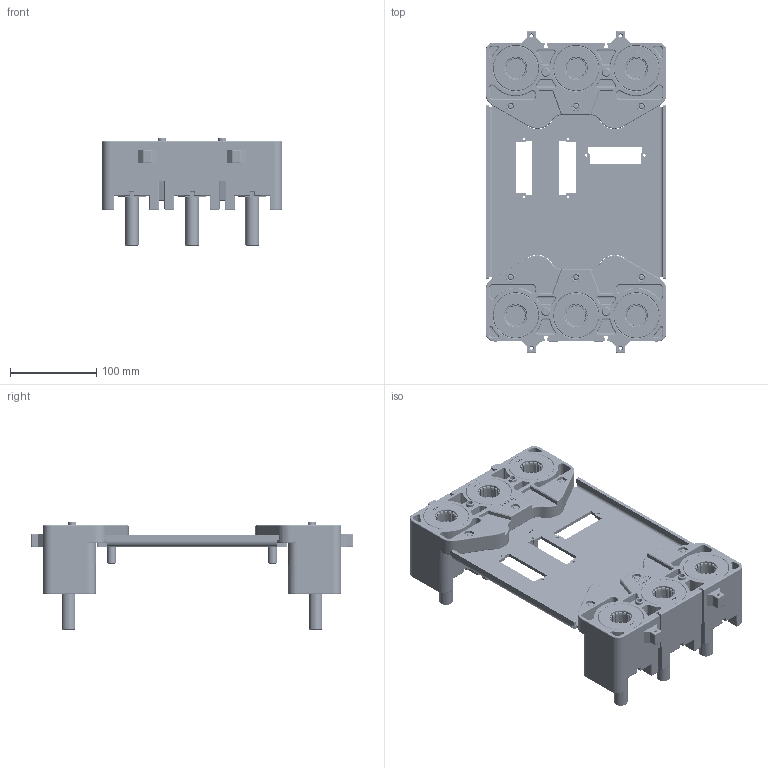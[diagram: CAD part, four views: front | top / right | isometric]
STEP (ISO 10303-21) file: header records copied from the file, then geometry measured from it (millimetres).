
FILE_DESCRIPTION(/* description */ (''),/* implementation_level */ '2;1');
FILE_NAME(/* name */ 'TDM 80GP P3_3D DATA.stp',/* time_stamp */ '2018-04-26T13:11:48+09:00',/* author */ (''),/* organization */ (''),/* preprocessor_version */ 'ST-DEVELOPER v15',/* originating_system */ 'SIEMENS PLM Software NX 9.0',/* authorisation */ '');
FILE_SCHEMA (('AP203_CONFIGURATION_CONTROLLED_3D_DESIGN_OF_MECHANICAL_PARTS_AND_ASSEMBLIES_MIM_LF { 1 0 10303 403 2 1 2}'));
Products named in the file (16): CONNECTED_SPRING_80GP_R00; PC-STUD BOLT M16xL78_R00; GP4-MO-9002_R01; GP4-PG-9001_R00; GC4-PR-9001_R00; STOPPER(4ME-04757)_R00; FIX PLATE(4ME-04758)_R00; GP4-MO-9001_R03; GP1-OT-9003_R00; PC_M6 NUT_R00; PC_DH BOLT M6xL22_R00; GP4-PR-9001_R00; GP4-AS-9001_R00; GP4-CP-9002_R00; GP4-CP-9001_R00_MODEL; GP4-CP-9001_R00
Assembly tree (48 placements, depth 5):
  GP4-CP-9001_R00
    GP4-CP-9001_R00_MODEL
      GP4-PR-9001_R00
      PC_DH BOLT M6xL22_R00  x6
      GP4-CP-9002_R00  x2
        GP4-AS-9001_R00
          GC4-PR-9001_R00  x16
          GP4-PG-9001_R00
          GP4-MO-9002_R01
          PC-STUD BOLT M16xL78_R00
          CONNECTED_SPRING_80GP_R00  x2
        GP4-MO-9001_R03
        FIX PLATE(4ME-04758)_R00
        STOPPER(4ME-04757)_R00
      PC_M6 NUT_R00  x6
      GP1-OT-9003_R00
Bounding box: 210 x 374 x 125.41 mm (x, y, z)
Volume: 1755489.2 mm3; surface area: 633472 mm2
Topology: 158 solids, 170 shells, 12522 faces, 32114 edges, 21751 vertices
Faces by surface type: torus 5558, cylinder 3046, plane 2744, bspline 674, sphere 184, cone 158, extrusion 158
Full cylindrical faces by diameter (mm): 3 x6, 3.5 x4, 6 x12, 6.5 x10, 9.4 x4, 10 x8, 11.8 x6, 12 x6, 14 x6, 14.5 x6, 16 x6, 26 x6, 28 x18, 52.5 x6, 53 x6
Entity records: 79149 total; most frequent: CARTESIAN_POINT 24097, DIRECTION 11369, ORIENTED_EDGE 8930, EDGE_CURVE 4467, AXIS2_PLACEMENT_3D 4020, VECTOR 3329, LINE 3284, VERTEX_POINT 2976
